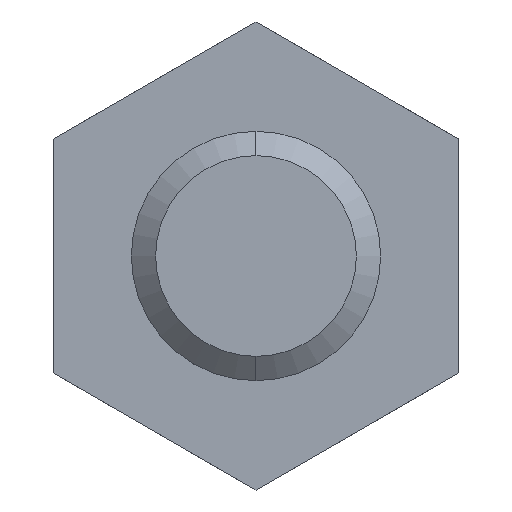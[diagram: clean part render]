
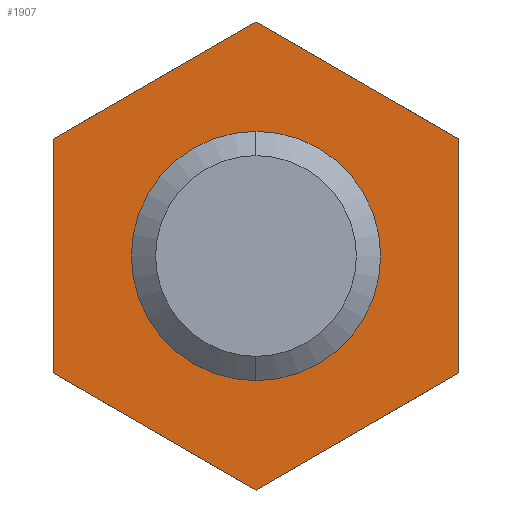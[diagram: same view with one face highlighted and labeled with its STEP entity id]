
A CAD part, front view. The second image highlights one B-rep face of the part: STEP entity #1907.
In plain terms, the highlighted planar face has unit normal (0, -1, 0).
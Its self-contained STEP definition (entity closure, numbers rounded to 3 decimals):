
#687 = CARTESIAN_POINT ( 'NONE',  ( 4., 35., 0. ) ) ;
#728 = CARTESIAN_POINT ( 'NONE',  ( -4., 35., 0. ) ) ;
#773 = DIRECTION ( 'NONE',  ( -1., 0., 0. ) ) ;
#774 = DIRECTION ( 'NONE',  ( 0., 1., 0. ) ) ;
#775 = CARTESIAN_POINT ( 'NONE',  ( 0., 35., 0. ) ) ;
#776 = AXIS2_PLACEMENT_3D ( 'NONE', #775, #774, #773 ) ;
#777 = CIRCLE ( 'NONE', #776, 4. ) ;
#1371 = VERTEX_POINT ( 'NONE', #3405 ) ;
#1373 = EDGE_CURVE ( 'NONE', #1374, #1371, #3404, .T. ) ;
#1374 = VERTEX_POINT ( 'NONE', #3400 ) ;
#1416 = VERTEX_POINT ( 'NONE', #3445 ) ;
#1418 = EDGE_CURVE ( 'NONE', #1430, #1416, #3444, .T. ) ;
#1430 = VERTEX_POINT ( 'NONE', #3469 ) ;
#1432 = EDGE_CURVE ( 'NONE', #1443, #1430, #3468, .T. ) ;
#1443 = VERTEX_POINT ( 'NONE', #3551 ) ;
#1445 = EDGE_CURVE ( 'NONE', #1371, #1443, #3550, .T. ) ;
#1472 = EDGE_CURVE ( 'NONE', #1485, #1374, #3564, .T. ) ;
#1485 = VERTEX_POINT ( 'NONE', #3625 ) ;
#1487 = EDGE_CURVE ( 'NONE', #1416, #1485, #3624, .T. ) ;
#1832 = EDGE_LOOP ( 'NONE', ( #1833, #1834 ) ) ;
#1833 = ORIENTED_EDGE ( 'NONE', *, *, #4708, .T. ) ;
#1834 = ORIENTED_EDGE ( 'NONE', *, *, #1835, .T. ) ;
#1835 = EDGE_CURVE ( 'NONE', #4663, #4698, #4179, .T. ) ;
#1836 = EDGE_LOOP ( 'NONE', ( #1890, #1891, #1892, #1893, #1894, #1895 ) ) ;
#1890 = ORIENTED_EDGE ( 'NONE', *, *, #1373, .T. ) ;
#1891 = ORIENTED_EDGE ( 'NONE', *, *, #1445, .T. ) ;
#1892 = ORIENTED_EDGE ( 'NONE', *, *, #1432, .T. ) ;
#1893 = ORIENTED_EDGE ( 'NONE', *, *, #1418, .T. ) ;
#1894 = ORIENTED_EDGE ( 'NONE', *, *, #1487, .T. ) ;
#1895 = ORIENTED_EDGE ( 'NONE', *, *, #1472, .T. ) ;
#1907 = ADVANCED_FACE ( 'NONE', ( #4263, #4259 ), #4258, .T. ) ;
#3400 = CARTESIAN_POINT ( 'NONE',  ( 6.5, 35., 3.753 ) ) ;
#3401 = DIRECTION ( 'NONE',  ( -0.866, 0., 0.5 ) ) ;
#3402 = VECTOR ( 'NONE', #3401, 1000. ) ;
#3403 = CARTESIAN_POINT ( 'NONE',  ( 6.5, 35., 3.753 ) ) ;
#3404 = LINE ( 'NONE', #3403, #3402 ) ;
#3405 = CARTESIAN_POINT ( 'NONE',  ( 0., 35., 7.506 ) ) ;
#3441 = DIRECTION ( 'NONE',  ( 0.866, 0., -0.5 ) ) ;
#3442 = VECTOR ( 'NONE', #3441, 1000. ) ;
#3443 = CARTESIAN_POINT ( 'NONE',  ( -6.5, 35., -3.753 ) ) ;
#3444 = LINE ( 'NONE', #3443, #3442 ) ;
#3445 = CARTESIAN_POINT ( 'NONE',  ( 0., 35., -7.506 ) ) ;
#3468 = LINE ( 'NONE', #3522, #3521 ) ;
#3469 = CARTESIAN_POINT ( 'NONE',  ( -6.5, 35., -3.753 ) ) ;
#3520 = DIRECTION ( 'NONE',  ( 0., 0., -1. ) ) ;
#3521 = VECTOR ( 'NONE', #3520, 1000. ) ;
#3522 = CARTESIAN_POINT ( 'NONE',  ( -6.5, 35., 3.753 ) ) ;
#3547 = DIRECTION ( 'NONE',  ( -0.866, 0., -0.5 ) ) ;
#3548 = VECTOR ( 'NONE', #3547, 1000. ) ;
#3549 = CARTESIAN_POINT ( 'NONE',  ( 0., 35., 7.506 ) ) ;
#3550 = LINE ( 'NONE', #3549, #3548 ) ;
#3551 = CARTESIAN_POINT ( 'NONE',  ( -6.5, 35., 3.753 ) ) ;
#3564 = LINE ( 'NONE', #3606, #3605 ) ;
#3604 = DIRECTION ( 'NONE',  ( 0., 0., 1. ) ) ;
#3605 = VECTOR ( 'NONE', #3604, 1000. ) ;
#3606 = CARTESIAN_POINT ( 'NONE',  ( 6.5, 35., -3.753 ) ) ;
#3621 = DIRECTION ( 'NONE',  ( 0.866, 0., 0.5 ) ) ;
#3622 = VECTOR ( 'NONE', #3621, 1000. ) ;
#3623 = CARTESIAN_POINT ( 'NONE',  ( 0., 35., -7.506 ) ) ;
#3624 = LINE ( 'NONE', #3623, #3622 ) ;
#3625 = CARTESIAN_POINT ( 'NONE',  ( 6.5, 35., -3.753 ) ) ;
#4175 = DIRECTION ( 'NONE',  ( -1., 0., 0. ) ) ;
#4176 = DIRECTION ( 'NONE',  ( 0., 1., 0. ) ) ;
#4177 = CARTESIAN_POINT ( 'NONE',  ( 0., 35., 0. ) ) ;
#4178 = AXIS2_PLACEMENT_3D ( 'NONE', #4177, #4176, #4175 ) ;
#4179 = CIRCLE ( 'NONE', #4178, 4. ) ;
#4254 = DIRECTION ( 'NONE',  ( 0., -1., 0. ) ) ;
#4255 = CARTESIAN_POINT ( 'NONE',  ( -4., 35., 0. ) ) ;
#4257 = AXIS2_PLACEMENT_3D ( 'NONE', #4255, #4254, #4318 ) ;
#4258 = PLANE ( 'NONE',  #4257 ) ;
#4259 = FACE_OUTER_BOUND ( 'NONE', #1836, .T. ) ;
#4263 = FACE_BOUND ( 'NONE', #1832, .T. ) ;
#4318 = DIRECTION ( 'NONE',  ( 1., 0., 0. ) ) ;
#4663 = VERTEX_POINT ( 'NONE', #687 ) ;
#4698 = VERTEX_POINT ( 'NONE', #728 ) ;
#4708 = EDGE_CURVE ( 'NONE', #4698, #4663, #777, .T. ) ;
